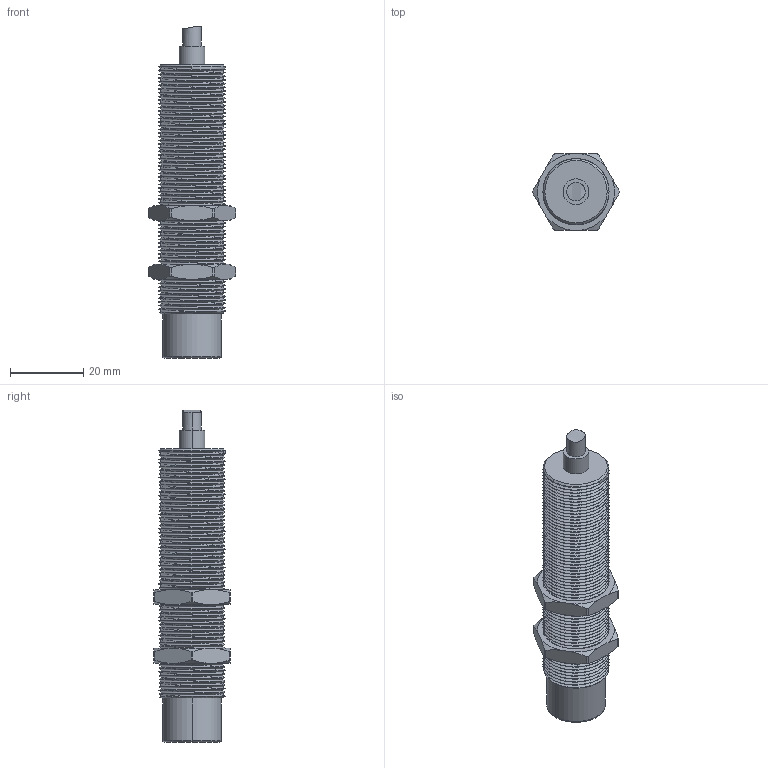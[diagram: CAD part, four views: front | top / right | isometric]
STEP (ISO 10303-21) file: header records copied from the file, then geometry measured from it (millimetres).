
FILE_DESCRIPTION((''),'2;1');
FILE_NAME('M18_MNL_D1880_ASM','2019-07-17T',('Administrator'),(''),'PRO/ENGINEER BY PARAMETRIC TECHNOLOGY CORPORATION, 2012130','PRO/ENGINEER BY PARAMETRIC TECHNOLOGY CORPORATION, 2012130','');
FILE_SCHEMA(('AUTOMOTIVE_DESIGN { 1 0 10303 214 1 1 1 1 }'));
Length unit declared in the file: millimetre
Products named in the file (3): M18_MNL_D1880; M18_LM; M18_MNL_D1880_ASM
Assembly tree (3 placements, depth 2):
  M18_MNL_D1880_ASM
    M18_MNL_D1880
    M18_LM  x2
Bounding box: 23.84 x 20.78 x 90.5 mm (x, y, z)
Volume: 19785.7 mm3; surface area: 9976.8 mm2
Topology: 3 solids, 3 shells, 264 faces, 741 edges, 486 vertices
Faces by surface type: cylinder 168, bspline 42, cone 27, plane 24, torus 2, extrusion 1
Entity records: 24189 total; most frequent: CARTESIAN_POINT 19000, ORIENTED_EDGE 1262, DIRECTION 671, EDGE_CURVE 631, VERTEX_POINT 413, B_SPLINE_CURVE_WITH_KNOTS 381, EDGE_LOOP 230, AXIS2_PLACEMENT_3D 227
